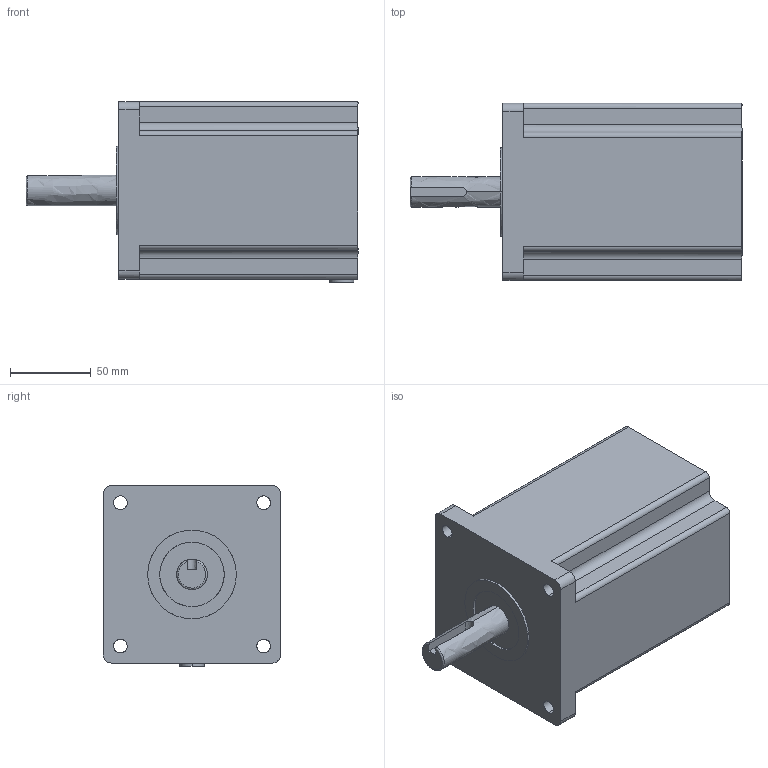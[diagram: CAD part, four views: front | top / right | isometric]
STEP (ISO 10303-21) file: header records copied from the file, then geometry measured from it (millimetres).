
FILE_DESCRIPTION (( 'STEP AP214' ), '1' );
FILE_NAME ('110A20.STEP', '2021-11-16T09:42:37', ( '微软用户' ), ( '微软中国' ), 'SwSTEP 2.0', 'SolidWorks 2020', '' );
FILE_SCHEMA (( 'AUTOMOTIVE_DESIGN' ));
Length unit declared in the file: millimetre
Products named in the file (1): 110A20
Bounding box: 206 x 110 x 112 mm (x, y, z)
Volume: 1635841.1 mm3; surface area: 92112.6 mm2
Topology: 1 solids, 1 shells, 60 faces, 161 edges, 107 vertices
Faces by surface type: bspline 60
Entity records: 2735 total; most frequent: CARTESIAN_POINT 1747, ORIENTED_EDGE 322, EDGE_CURVE 161, B_SPLINE_CURVE_WITH_KNOTS 128, VERTEX_POINT 107, EDGE_LOOP 72, FACE_OUTER_BOUND 60, ADVANCED_FACE 60
